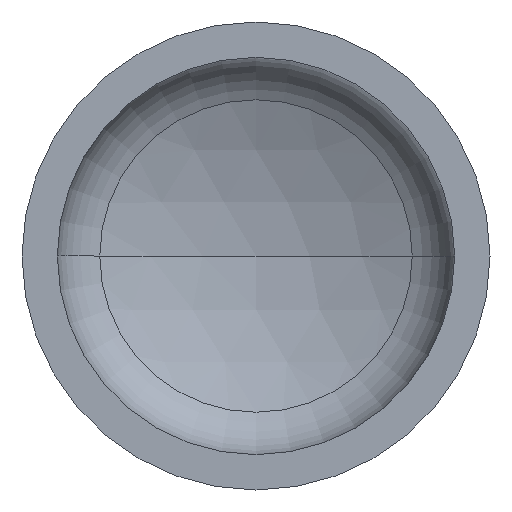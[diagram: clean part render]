
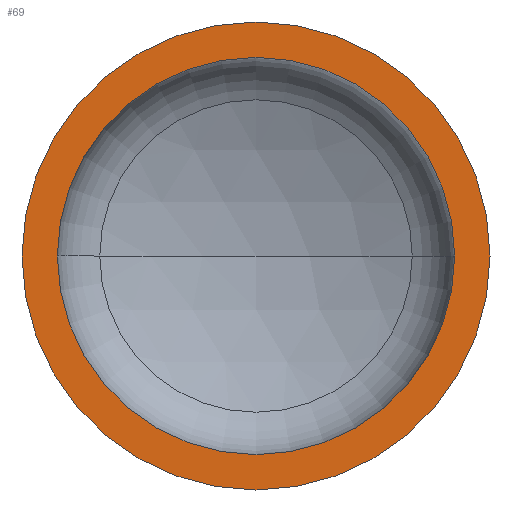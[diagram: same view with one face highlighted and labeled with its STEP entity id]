
A CAD part, front view. The second image highlights one B-rep face of the part: STEP entity #69.
In plain terms, the highlighted planar face has unit normal (0, -1, 0).
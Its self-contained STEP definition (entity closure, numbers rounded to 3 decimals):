
#1 = AXIS2_PLACEMENT_3D ( 'NONE', #181, #353, #362 ) ;
#6 = CARTESIAN_POINT ( 'NONE',  ( 450., 0., 0. ) ) ;
#7 = ORIENTED_EDGE ( 'NONE', *, *, #94, .T. ) ;
#18 = DIRECTION ( 'NONE',  ( 0., -1., 0. ) ) ;
#62 = AXIS2_PLACEMENT_3D ( 'NONE', #130, #208, #378 ) ;
#67 = AXIS2_PLACEMENT_3D ( 'NONE', #287, #125, #407 ) ;
#69 = ADVANCED_FACE ( 'NONE', ( #179, #333 ), #408, .F. ) ;
#73 = AXIS2_PLACEMENT_3D ( 'NONE', #350, #291, #127 ) ;
#94 = EDGE_CURVE ( 'NONE', #337, #241, #163, .T. ) ;
#97 = EDGE_CURVE ( 'NONE', #120, #279, #314, .T. ) ;
#120 = VERTEX_POINT ( 'NONE', #272 ) ;
#125 = DIRECTION ( 'NONE',  ( 0., -1., 0. ) ) ;
#127 = DIRECTION ( 'NONE',  ( -1., 0., 0. ) ) ;
#130 = CARTESIAN_POINT ( 'NONE',  ( 0., 0., 0. ) ) ;
#139 = ORIENTED_EDGE ( 'NONE', *, *, #399, .F. ) ;
#143 = EDGE_LOOP ( 'NONE', ( #236, #139 ) ) ;
#152 = ORIENTED_EDGE ( 'NONE', *, *, #373, .T. ) ;
#163 = CIRCLE ( 'NONE', #67, 450. ) ;
#171 = CARTESIAN_POINT ( 'NONE',  ( -382., 0., 0. ) ) ;
#179 = FACE_BOUND ( 'NONE', #143, .T. ) ;
#181 = CARTESIAN_POINT ( 'NONE',  ( 0., 0., 0. ) ) ;
#208 = DIRECTION ( 'NONE',  ( 0., -1., 0. ) ) ;
#218 = CARTESIAN_POINT ( 'NONE',  ( 0., 0., 0. ) ) ;
#236 = ORIENTED_EDGE ( 'NONE', *, *, #97, .F. ) ;
#241 = VERTEX_POINT ( 'NONE', #6 ) ;
#244 = CARTESIAN_POINT ( 'NONE',  ( -450., 0., 0. ) ) ;
#249 = DIRECTION ( 'NONE',  ( 1., 0., 0. ) ) ;
#272 = CARTESIAN_POINT ( 'NONE',  ( 382., 0., 0. ) ) ;
#279 = VERTEX_POINT ( 'NONE', #171 ) ;
#287 = CARTESIAN_POINT ( 'NONE',  ( 0., 0., 0. ) ) ;
#291 = DIRECTION ( 'NONE',  ( 0., 1., 0. ) ) ;
#297 = AXIS2_PLACEMENT_3D ( 'NONE', #218, #18, #249 ) ;
#314 = CIRCLE ( 'NONE', #62, 382. ) ;
#318 = CIRCLE ( 'NONE', #297, 450. ) ;
#333 = FACE_OUTER_BOUND ( 'NONE', #344, .T. ) ;
#337 = VERTEX_POINT ( 'NONE', #244 ) ;
#344 = EDGE_LOOP ( 'NONE', ( #152, #7 ) ) ;
#350 = CARTESIAN_POINT ( 'NONE',  ( -450., 0., 0. ) ) ;
#353 = DIRECTION ( 'NONE',  ( 0., -1., 0. ) ) ;
#362 = DIRECTION ( 'NONE',  ( 1., 0., 0. ) ) ;
#373 = EDGE_CURVE ( 'NONE', #241, #337, #318, .T. ) ;
#378 = DIRECTION ( 'NONE',  ( 1., 0., 0. ) ) ;
#384 = CIRCLE ( 'NONE', #1, 382. ) ;
#399 = EDGE_CURVE ( 'NONE', #279, #120, #384, .T. ) ;
#407 = DIRECTION ( 'NONE',  ( 1., 0., 0. ) ) ;
#408 = PLANE ( 'NONE',  #73 ) ;
